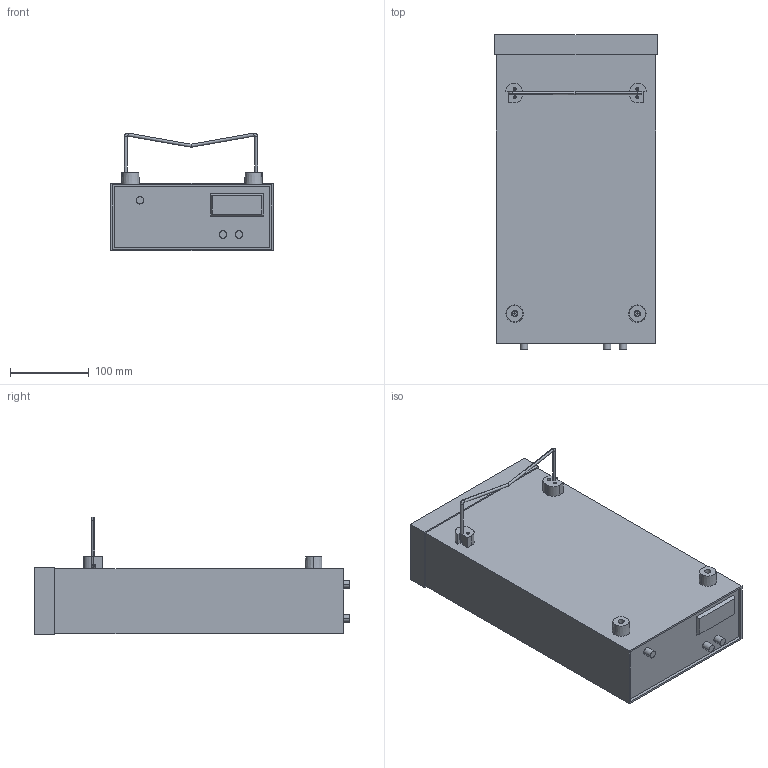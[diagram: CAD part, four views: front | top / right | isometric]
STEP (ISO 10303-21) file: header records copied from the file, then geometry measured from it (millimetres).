
FILE_DESCRIPTION((''),'2;1');
FILE_NAME('2290-RMK-COVER_ASM','2018-03-16T',('dking'),('Keithley Instruments'),'CREO PARAMETRIC BY PTC INC, 2016050','CREO PARAMETRIC BY PTC INC, 2016050','');
FILE_SCHEMA(('AUTOMOTIVE_DESIGN { 1 0 10303 214 1 1 1 1 }'));
Length unit declared in the file: inch
Products named in the file (7): 2290-PA-COVER; 2290-RMK-BACKFOOT; 2290-RMK-FRTFT-LEFT; 2290-RMK-FRTFT-RIGHT; 2290-RMK-HANDLE; 6-32X1-2PPH; 2290-RMK-COVER_ASM
Assembly tree (12 placements, depth 2):
  2290-RMK-COVER_ASM
    2290-PA-COVER
    2290-RMK-BACKFOOT  x2
    2290-RMK-FRTFT-LEFT
    2290-RMK-FRTFT-RIGHT
    2290-RMK-HANDLE
    6-32X1-2PPH  x6
Bounding box: 205.74 x 399.16 x 149.7 mm (x, y, z)
Volume: 6517287.1 mm3; surface area: 278325.8 mm2
Topology: 12 solids, 12 shells, 280 faces, 662 edges, 432 vertices
Faces by surface type: plane 156, cylinder 100, cone 16, torus 8
Entity records: 6339 total; most frequent: DIRECTION 762, CARTESIAN_POINT 745, ORIENTED_EDGE 648, PROPERTY_DEFINITION 331, REPRESENTATION 325, PROPERTY_DEFINITION_REPRESENTATION 325, EDGE_CURVE 324, AXIS2_PLACEMENT_3D 282
